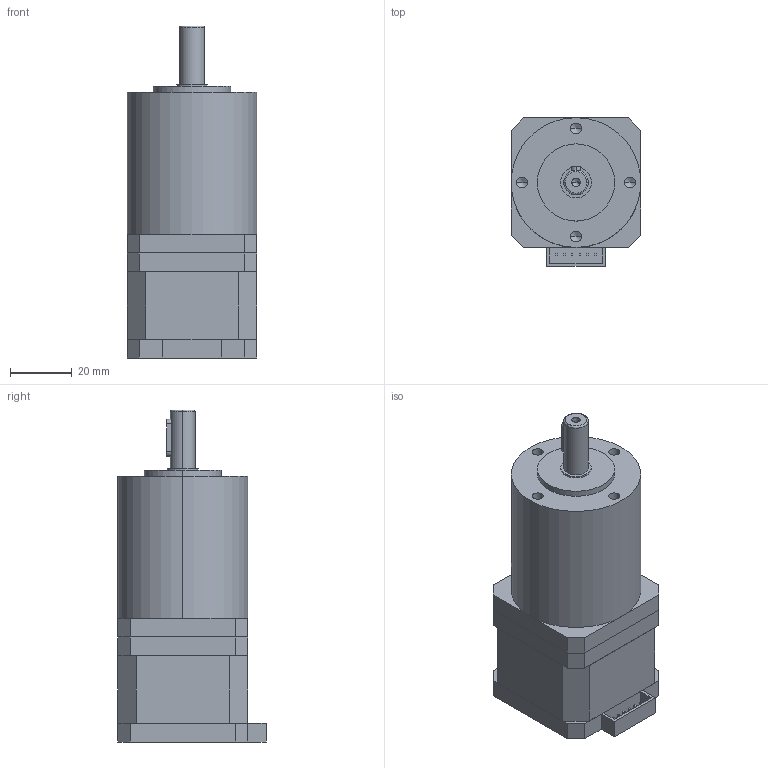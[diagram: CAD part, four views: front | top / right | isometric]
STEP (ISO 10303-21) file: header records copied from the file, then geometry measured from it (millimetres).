
FILE_DESCRIPTION (( 'STEP AP203' ), '1' );
FILE_NAME ('42PG040-D17-0434.STEP', '2019-10-12T01:05:20', ( 'China' ), ( 'Home' ), 'SwSTEP 2.0', 'SolidWorks 2016', '' );
FILE_SCHEMA (( 'CONFIG_CONTROL_DESIGN' ));
Length unit declared in the file: millimetre
Products named in the file (1): 42PG040-D17-0434
Bounding box: 42 x 48 x 107.5 mm (x, y, z)
Volume: 134190.6 mm3; surface area: 27760.9 mm2
Topology: 5 solids, 5 shells, 123 faces, 291 edges, 183 vertices
Faces by surface type: plane 90, cylinder 21, cone 10, bspline 2
Entity records: 3508 total; most frequent: CARTESIAN_POINT 624, DIRECTION 569, ORIENTED_EDGE 562, EDGE_CURVE 281, LINE 233, VECTOR 233, VERTEX_POINT 183, AXIS2_PLACEMENT_3D 168
